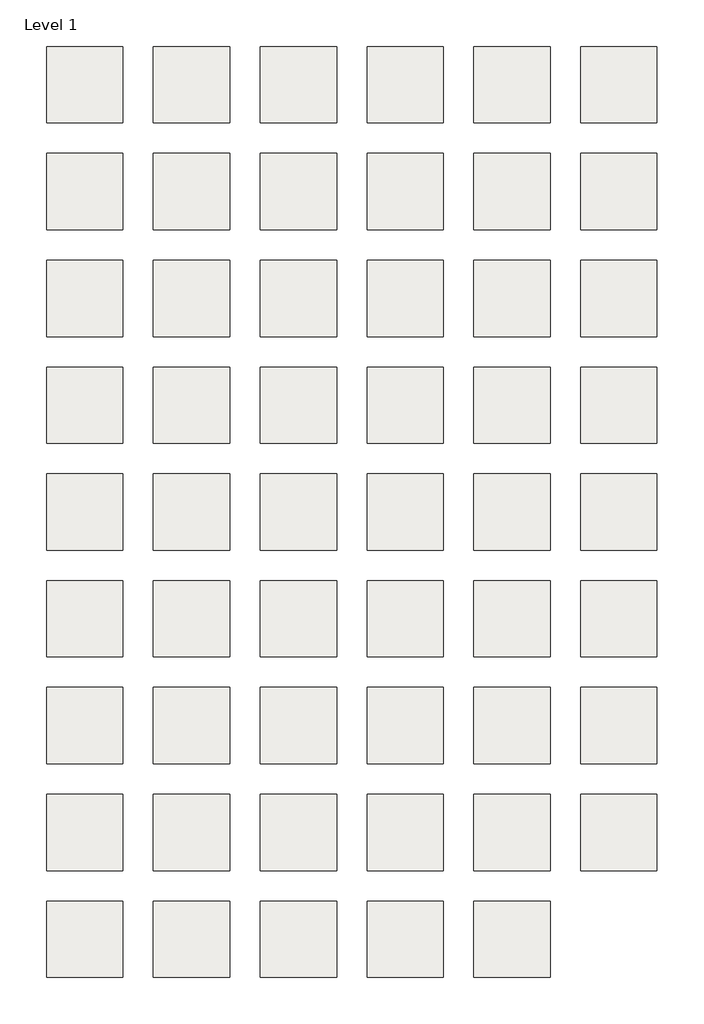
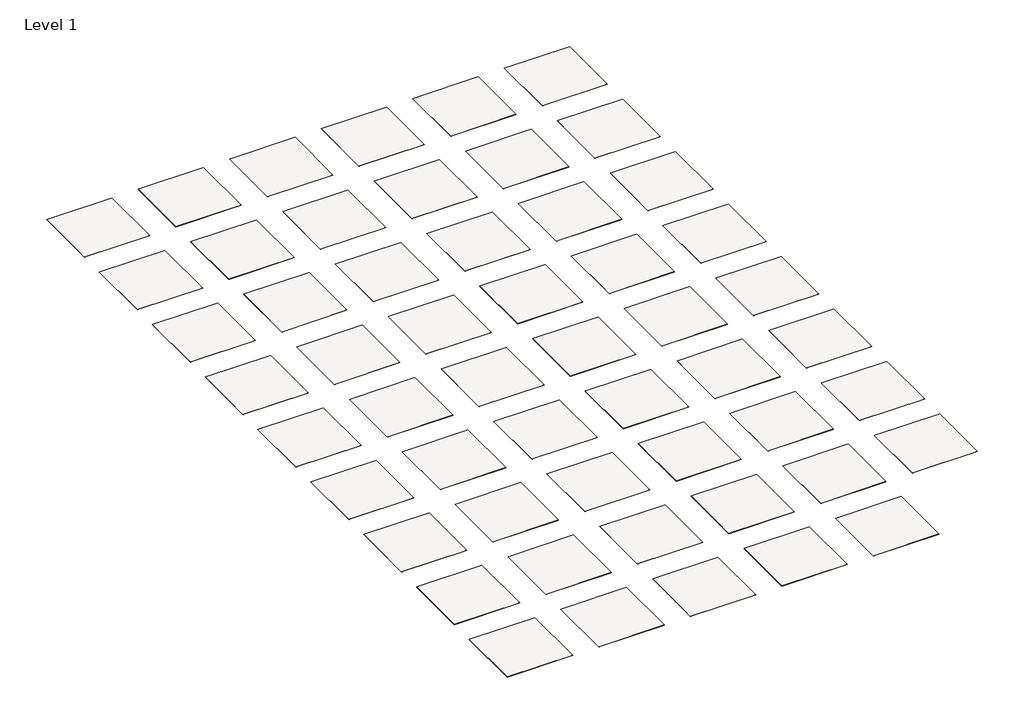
# One storey: 53 slabs.
"""IFC4 building model written with IfcOpenShell, lengths in millimetres."""

from ifc_helpers import new_model, si_unit, frame, origin, place, context, project, spatial, polyline, outline, extrude, element, save

model = new_model("IFC4")

# Units and contexts
model_context = context("Model", 3, world=origin())
ifc_project = project(units=[si_unit("LENGTHUNIT", "METRE", prefix="MILLI")], contexts=[model_context])

# Site, building, storey
site = spatial("IfcSite", under=ifc_project)
building = spatial("IfcBuilding", under=site)
storey = spatial("IfcBuildingStorey", under=building, Name="Level 1", Elevation=0.0)

# Slabs
placement = place(None, origin())
element("IfcSlab", 1, ObjectType="Armstrong Flooring_Luxury Flooring_NA120_Maritime", at=placement, inside=storey, context=model_context, shape_type="SweptSolid", body=[
    extrude(outline(polyline([(1219.2, 6400.8), (1219.2, 4876.8), (-304.8, 4876.8), (-304.8, 6400.8), (1219.2, 6400.8)])), frame((0.0, 0.0, -3.175), z_axis=(0.0, 0.0, 1.0), x_axis=(1.0, 0.0, 0.0)), (0.0, 0.0, 1.0), 3.175),
])
element("IfcSlab", 2, ObjectType="Armstrong Flooring_Luxury Flooring_NA121_Boardwalk", at=placement, inside=storey, context=model_context, shape_type="SweptSolid", body=[
    extrude(outline(polyline([(3352.8, 6400.8), (3352.8, 4876.8), (1828.8, 4876.8), (1828.8, 6400.8), (3352.8, 6400.8)])), frame((0.0, 0.0, -3.175), z_axis=(0.0, 0.0, 1.0), x_axis=(1.0, 0.0, 0.0)), (0.0, 0.0, 1.0), 3.175),
])
element("IfcSlab", 3, ObjectType="Armstrong Flooring_Luxury Flooring_NA170_Honeysuckle", at=placement, inside=storey, context=model_context, shape_type="SweptSolid", body=[
    extrude(outline(polyline([(5486.4, 6400.8), (5486.4, 4876.8), (3962.4, 4876.8), (3962.4, 6400.8), (5486.4, 6400.8)])), frame((0.0, 0.0, -3.175), z_axis=(0.0, 0.0, 1.0), x_axis=(1.0, 0.0, 0.0)), (0.0, 0.0, 1.0), 3.175),
])
element("IfcSlab", 4, ObjectType="Armstrong Flooring_Luxury Flooring_NA171_Sweet Sap", at=placement, inside=storey, context=model_context, shape_type="SweptSolid", body=[
    extrude(outline(polyline([(7620.0, 6400.8), (7620.0, 4876.8), (6096.0, 4876.8), (6096.0, 6400.8), (7620.0, 6400.8)])), frame((0.0, 0.0, -3.175), z_axis=(0.0, 0.0, 1.0), x_axis=(1.0, 0.0, 0.0)), (0.0, 0.0, 1.0), 3.175),
])
element("IfcSlab", 5, ObjectType="Armstrong Flooring_Luxury Flooring_NA180_Rye", at=placement, inside=storey, context=model_context, shape_type="SweptSolid", body=[
    extrude(outline(polyline([(9753.6, 6400.8), (9753.6, 4876.8), (8229.6, 4876.8), (8229.6, 6400.8), (9753.6, 6400.8)])), frame((0.0, 0.0, -3.175), z_axis=(0.0, 0.0, 1.0), x_axis=(1.0, 0.0, 0.0)), (0.0, 0.0, 1.0), 3.175),
])
element("IfcSlab", 6, ObjectType="Armstrong Flooring_Luxury Flooring_NA181_Wheat", at=placement, inside=storey, context=model_context, shape_type="SweptSolid", body=[
    extrude(outline(polyline([(11887.2, 6400.8), (11887.2, 4876.8), (10363.2, 4876.8), (10363.2, 6400.8), (11887.2, 6400.8)])), frame((0.0, 0.0, -3.175), z_axis=(0.0, 0.0, 1.0), x_axis=(1.0, 0.0, 0.0)), (0.0, 0.0, 1.0), 3.175),
])
element("IfcSlab", 7, ObjectType="Armstrong Flooring_Luxury Flooring_NA190_Moroccan Sand", at=placement, inside=storey, context=model_context, shape_type="SweptSolid", body=[
    extrude(outline(polyline([(1219.2, 4267.2), (1219.2, 2743.2), (-304.8, 2743.2), (-304.8, 4267.2), (1219.2, 4267.2)])), frame((0.0, 0.0, -3.175), z_axis=(0.0, 0.0, 1.0), x_axis=(1.0, 0.0, 0.0)), (0.0, 0.0, 1.0), 3.175),
])
element("IfcSlab", 8, ObjectType="Armstrong Flooring_Luxury Flooring_NA191_Warm Capri", at=placement, inside=storey, context=model_context, shape_type="SweptSolid", body=[
    extrude(outline(polyline([(3352.8, 4267.2), (3352.8, 2743.2), (1828.8, 2743.2), (1828.8, 4267.2), (3352.8, 4267.2)])), frame((0.0, 0.0, -3.175), z_axis=(0.0, 0.0, 1.0), x_axis=(1.0, 0.0, 0.0)), (0.0, 0.0, 1.0), 3.175),
])
element("IfcSlab", 9, ObjectType="Armstrong Flooring_Luxury Flooring_NA193_Vienna Smoke", at=placement, inside=storey, context=model_context, shape_type="SweptSolid", body=[
    extrude(outline(polyline([(5486.4, 4267.2), (5486.4, 2743.2), (3962.4, 2743.2), (3962.4, 4267.2), (5486.4, 4267.2)])), frame((0.0, 0.0, -3.175), z_axis=(0.0, 0.0, 1.0), x_axis=(1.0, 0.0, 0.0)), (0.0, 0.0, 1.0), 3.175),
])
element("IfcSlab", 10, ObjectType="Armstrong Flooring_Luxury Flooring_NA194_Madrid Grey", at=placement, inside=storey, context=model_context, shape_type="SweptSolid", body=[
    extrude(outline(polyline([(7620.0, 4267.2), (7620.0, 2743.2), (6096.0, 2743.2), (6096.0, 4267.2), (7620.0, 4267.2)])), frame((0.0, 0.0, -3.175), z_axis=(0.0, 0.0, 1.0), x_axis=(1.0, 0.0, 0.0)), (0.0, 0.0, 1.0), 3.175),
])
element("IfcSlab", 11, ObjectType="Armstrong Flooring_Luxury Flooring_NA225_Saddle Rust", at=placement, inside=storey, context=model_context, shape_type="SweptSolid", body=[
    extrude(outline(polyline([(9753.6, 4267.2), (9753.6, 2743.2), (8229.6, 2743.2), (8229.6, 4267.2), (9753.6, 4267.2)])), frame((0.0, 0.0, -3.175), z_axis=(0.0, 0.0, 1.0), x_axis=(1.0, 0.0, 0.0)), (0.0, 0.0, 1.0), 3.175),
])
element("IfcSlab", 12, ObjectType="Armstrong Flooring_Luxury Flooring_NA310_Irish Cream", at=placement, inside=storey, context=model_context, shape_type="SweptSolid", body=[
    extrude(outline(polyline([(11887.2, 4267.2), (11887.2, 2743.2), (10363.2, 2743.2), (10363.2, 4267.2), (11887.2, 4267.2)])), frame((0.0, 0.0, -3.175), z_axis=(0.0, 0.0, 1.0), x_axis=(1.0, 0.0, 0.0)), (0.0, 0.0, 1.0), 3.175),
])
element("IfcSlab", 13, ObjectType="Armstrong Flooring_Luxury Flooring_NA330_Plaster", at=placement, inside=storey, context=model_context, shape_type="SweptSolid", body=[
    extrude(outline(polyline([(1219.2, 2133.6), (1219.2, 609.6), (-304.8, 609.6), (-304.8, 2133.6), (1219.2, 2133.6)])), frame((0.0, 0.0, -3.175), z_axis=(0.0, 0.0, 1.0), x_axis=(1.0, 0.0, 0.0)), (0.0, 0.0, 1.0), 3.175),
])
element("IfcSlab", 14, ObjectType="Armstrong Flooring_Luxury Flooring_NA331_Mortar", at=placement, inside=storey, context=model_context, shape_type="SweptSolid", body=[
    extrude(outline(polyline([(3352.8, 2133.6), (3352.8, 609.6), (1828.8, 609.6), (1828.8, 2133.6), (3352.8, 2133.6)])), frame((0.0, 0.0, -3.175), z_axis=(0.0, 0.0, 1.0), x_axis=(1.0, 0.0, 0.0)), (0.0, 0.0, 1.0), 3.175),
])
element("IfcSlab", 15, ObjectType="Armstrong Flooring_Luxury Flooring_NA511_Carmelo", at=placement, inside=storey, context=model_context, shape_type="SweptSolid", body=[
    extrude(outline(polyline([(5486.4, 2133.6), (5486.4, 609.6), (3962.4, 609.6), (3962.4, 2133.6), (5486.4, 2133.6)])), frame((0.0, 0.0, -3.175), z_axis=(0.0, 0.0, 1.0), x_axis=(1.0, 0.0, 0.0)), (0.0, 0.0, 1.0), 3.175),
])
element("IfcSlab", 16, ObjectType="Armstrong Flooring_Luxury Flooring_NA512_Jute", at=placement, inside=storey, context=model_context, shape_type="SweptSolid", body=[
    extrude(outline(polyline([(7620.0, 2133.6), (7620.0, 609.6), (6096.0, 609.6), (6096.0, 2133.6), (7620.0, 2133.6)])), frame((0.0, 0.0, -3.175), z_axis=(0.0, 0.0, 1.0), x_axis=(1.0, 0.0, 0.0)), (0.0, 0.0, 1.0), 3.175),
])
element("IfcSlab", 17, ObjectType="Armstrong Flooring_Luxury Flooring_NA513_Russet", at=placement, inside=storey, context=model_context, shape_type="SweptSolid", body=[
    extrude(outline(polyline([(9753.6, 2133.6), (9753.6, 609.6), (8229.6, 609.6), (8229.6, 2133.6), (9753.6, 2133.6)])), frame((0.0, 0.0, -3.175), z_axis=(0.0, 0.0, 1.0), x_axis=(1.0, 0.0, 0.0)), (0.0, 0.0, 1.0), 3.175),
])
element("IfcSlab", 18, ObjectType="Armstrong Flooring_Luxury Flooring_NA514_Auburn", at=placement, inside=storey, context=model_context, shape_type="SweptSolid", body=[
    extrude(outline(polyline([(11887.2, 2133.6), (11887.2, 609.6), (10363.2, 609.6), (10363.2, 2133.6), (11887.2, 2133.6)])), frame((0.0, 0.0, -3.175), z_axis=(0.0, 0.0, 1.0), x_axis=(1.0, 0.0, 0.0)), (0.0, 0.0, 1.0), 3.175),
])
element("IfcSlab", 19, ObjectType="Armstrong Flooring_Luxury Flooring_NA515_Luce", at=placement, inside=storey, context=model_context, shape_type="SweptSolid", body=[
    extrude(outline(polyline([(1219.2, 0.0), (1219.2, -1524.0), (-304.8, -1524.0), (-304.8, 0.0), (1219.2, 0.0)])), frame((0.0, 0.0, -3.175), z_axis=(0.0, 0.0, 1.0), x_axis=(1.0, 0.0, 0.0)), (0.0, 0.0, 1.0), 3.175),
])
element("IfcSlab", 20, ObjectType="Armstrong Flooring_Luxury Flooring_NA516_Sienna", at=placement, inside=storey, context=model_context, shape_type="SweptSolid", body=[
    extrude(outline(polyline([(3352.8, 0.0), (3352.8, -1524.0), (1828.8, -1524.0), (1828.8, 0.0), (3352.8, 0.0)])), frame((0.0, 0.0, -3.175), z_axis=(0.0, 0.0, 1.0), x_axis=(1.0, 0.0, 0.0)), (0.0, 0.0, 1.0), 3.175),
])
element("IfcSlab", 21, ObjectType="Armstrong Flooring_Luxury Flooring_NA517_Fresco", at=placement, inside=storey, context=model_context, shape_type="SweptSolid", body=[
    extrude(outline(polyline([(5486.4, 0.0), (5486.4, -1524.0), (3962.4, -1524.0), (3962.4, 0.0), (5486.4, 0.0)])), frame((0.0, 0.0, -3.175), z_axis=(0.0, 0.0, 1.0), x_axis=(1.0, 0.0, 0.0)), (0.0, 0.0, 1.0), 3.175),
])
element("IfcSlab", 22, ObjectType="Armstrong Flooring_Luxury Flooring_NA518_Rustle", at=placement, inside=storey, context=model_context, shape_type="SweptSolid", body=[
    extrude(outline(polyline([(7620.0, 0.0), (7620.0, -1524.0), (6096.0, -1524.0), (6096.0, 0.0), (7620.0, 0.0)])), frame((0.0, 0.0, -3.175), z_axis=(0.0, 0.0, 1.0), x_axis=(1.0, 0.0, 0.0)), (0.0, 0.0, 1.0), 3.175),
])
element("IfcSlab", 23, ObjectType="Armstrong Flooring_Luxury Flooring_NA519_Dune Wind", at=placement, inside=storey, context=model_context, shape_type="SweptSolid", body=[
    extrude(outline(polyline([(9753.6, 0.0), (9753.6, -1524.0), (8229.6, -1524.0), (8229.6, 0.0), (9753.6, 0.0)])), frame((0.0, 0.0, -3.175), z_axis=(0.0, 0.0, 1.0), x_axis=(1.0, 0.0, 0.0)), (0.0, 0.0, 1.0), 3.175),
])
element("IfcSlab", 24, ObjectType="Armstrong Flooring_Luxury Flooring_NA520_Ember", at=placement, inside=storey, context=model_context, shape_type="SweptSolid", body=[
    extrude(outline(polyline([(11887.2, 0.0), (11887.2, -1524.0), (10363.2, -1524.0), (10363.2, 0.0), (11887.2, 0.0)])), frame((0.0, 0.0, -3.175), z_axis=(0.0, 0.0, 1.0), x_axis=(1.0, 0.0, 0.0)), (0.0, 0.0, 1.0), 3.175),
])
element("IfcSlab", 25, ObjectType="Armstrong Flooring_Luxury Flooring_NA521_Earthbound", at=placement, inside=storey, context=model_context, shape_type="SweptSolid", body=[
    extrude(outline(polyline([(1219.2, -2133.6), (1219.2, -3657.6), (-304.8, -3657.6), (-304.8, -2133.6), (1219.2, -2133.6)])), frame((0.0, 0.0, -3.175), z_axis=(0.0, 0.0, 1.0), x_axis=(1.0, 0.0, 0.0)), (0.0, 0.0, 1.0), 3.175),
])
element("IfcSlab", 26, ObjectType="Armstrong Flooring_Luxury Flooring_NA522_Light", at=placement, inside=storey, context=model_context, shape_type="SweptSolid", body=[
    extrude(outline(polyline([(3352.8, -2133.6), (3352.8, -3657.6), (1828.8, -3657.6), (1828.8, -2133.6), (3352.8, -2133.6)])), frame((0.0, 0.0, -3.175), z_axis=(0.0, 0.0, 1.0), x_axis=(1.0, 0.0, 0.0)), (0.0, 0.0, 1.0), 3.175),
])
element("IfcSlab", 27, ObjectType="Armstrong Flooring_Luxury Flooring_NA524_Light", at=placement, inside=storey, context=model_context, shape_type="SweptSolid", body=[
    extrude(outline(polyline([(5486.4, -2133.6), (5486.4, -3657.6), (3962.4, -3657.6), (3962.4, -2133.6), (5486.4, -2133.6)])), frame((0.0, 0.0, -3.175), z_axis=(0.0, 0.0, 1.0), x_axis=(1.0, 0.0, 0.0)), (0.0, 0.0, 1.0), 3.175),
])
element("IfcSlab", 28, ObjectType="Armstrong Flooring_Luxury Flooring_NA525_Shadow", at=placement, inside=storey, context=model_context, shape_type="SweptSolid", body=[
    extrude(outline(polyline([(7620.0, -2133.6), (7620.0, -3657.6), (6096.0, -3657.6), (6096.0, -2133.6), (7620.0, -2133.6)])), frame((0.0, 0.0, -3.175), z_axis=(0.0, 0.0, 1.0), x_axis=(1.0, 0.0, 0.0)), (0.0, 0.0, 1.0), 3.175),
])
element("IfcSlab", 29, ObjectType="Armstrong Flooring_Luxury Flooring_NA527_Shadow", at=placement, inside=storey, context=model_context, shape_type="SweptSolid", body=[
    extrude(outline(polyline([(9753.6, -2133.6), (9753.6, -3657.6), (8229.6, -3657.6), (8229.6, -2133.6), (9753.6, -2133.6)])), frame((0.0, 0.0, -3.175), z_axis=(0.0, 0.0, 1.0), x_axis=(1.0, 0.0, 0.0)), (0.0, 0.0, 1.0), 3.175),
])
element("IfcSlab", 30, ObjectType="Armstrong Flooring_Luxury Flooring_NA528_Pearl", at=placement, inside=storey, context=model_context, shape_type="SweptSolid", body=[
    extrude(outline(polyline([(11887.2, -2133.6), (11887.2, -3657.6), (10363.2, -3657.6), (10363.2, -2133.6), (11887.2, -2133.6)])), frame((0.0, 0.0, -3.175), z_axis=(0.0, 0.0, 1.0), x_axis=(1.0, 0.0, 0.0)), (0.0, 0.0, 1.0), 3.175),
])
element("IfcSlab", 31, ObjectType="Armstrong Flooring_Luxury Flooring_NA528_Pearl(1)", at=placement, inside=storey, context=model_context, shape_type="SweptSolid", body=[
    extrude(outline(polyline([(1219.2, -4267.2), (1219.2, -5791.2), (-304.8, -5791.2), (-304.8, -4267.2), (1219.2, -4267.2)])), frame((0.0, 0.0, -3.175), z_axis=(0.0, 0.0, 1.0), x_axis=(1.0, 0.0, 0.0)), (0.0, 0.0, 1.0), 3.175),
])
element("IfcSlab", 32, ObjectType="Armstrong Flooring_Luxury Flooring_NA529_Rain", at=placement, inside=storey, context=model_context, shape_type="SweptSolid", body=[
    extrude(outline(polyline([(3352.8, -4267.2), (3352.8, -5791.2), (1828.8, -5791.2), (1828.8, -4267.2), (3352.8, -4267.2)])), frame((0.0, 0.0, -3.175), z_axis=(0.0, 0.0, 1.0), x_axis=(1.0, 0.0, 0.0)), (0.0, 0.0, 1.0), 3.175),
])
element("IfcSlab", 33, ObjectType="Armstrong Flooring_Luxury Flooring_NA529_Rain(1)", at=placement, inside=storey, context=model_context, shape_type="SweptSolid", body=[
    extrude(outline(polyline([(5486.4, -4267.2), (5486.4, -5791.2), (3962.4, -5791.2), (3962.4, -4267.2), (5486.4, -4267.2)])), frame((0.0, 0.0, -3.175), z_axis=(0.0, 0.0, 1.0), x_axis=(1.0, 0.0, 0.0)), (0.0, 0.0, 1.0), 3.175),
])
element("IfcSlab", 34, ObjectType="Armstrong Flooring_Luxury Flooring_NA532_Provence Clay", at=placement, inside=storey, context=model_context, shape_type="SweptSolid", body=[
    extrude(outline(polyline([(7620.0, -4267.2), (7620.0, -5791.2), (6096.0, -5791.2), (6096.0, -4267.2), (7620.0, -4267.2)])), frame((0.0, 0.0, -3.175), z_axis=(0.0, 0.0, 1.0), x_axis=(1.0, 0.0, 0.0)), (0.0, 0.0, 1.0), 3.175),
])
element("IfcSlab", 35, ObjectType="Armstrong Flooring_Luxury Flooring_NA533_Nature Harmony", at=placement, inside=storey, context=model_context, shape_type="SweptSolid", body=[
    extrude(outline(polyline([(9753.6, -4267.2), (9753.6, -5791.2), (8229.6, -5791.2), (8229.6, -4267.2), (9753.6, -4267.2)])), frame((0.0, 0.0, -3.175), z_axis=(0.0, 0.0, 1.0), x_axis=(1.0, 0.0, 0.0)), (0.0, 0.0, 1.0), 3.175),
])
element("IfcSlab", 36, ObjectType="Armstrong Flooring_Luxury Flooring_NA534_Sunlight Walk", at=placement, inside=storey, context=model_context, shape_type="SweptSolid", body=[
    extrude(outline(polyline([(11887.2, -4267.2), (11887.2, -5791.2), (10363.2, -5791.2), (10363.2, -4267.2), (11887.2, -4267.2)])), frame((0.0, 0.0, -3.175), z_axis=(0.0, 0.0, 1.0), x_axis=(1.0, 0.0, 0.0)), (0.0, 0.0, 1.0), 3.175),
])
element("IfcSlab", 37, ObjectType="Armstrong Flooring_Luxury Flooring_NA535_Napa Beige", at=placement, inside=storey, context=model_context, shape_type="SweptSolid", body=[
    extrude(outline(polyline([(1219.2, -6400.8), (1219.2, -7924.8), (-304.8, -7924.8), (-304.8, -6400.8), (1219.2, -6400.8)])), frame((0.0, 0.0, -3.175), z_axis=(0.0, 0.0, 1.0), x_axis=(1.0, 0.0, 0.0)), (0.0, 0.0, 1.0), 3.175),
])
element("IfcSlab", 38, ObjectType="Armstrong Flooring_Luxury Flooring_NA536_Sonoma Brown", at=placement, inside=storey, context=model_context, shape_type="SweptSolid", body=[
    extrude(outline(polyline([(3352.8, -6400.8), (3352.8, -7924.8), (1828.8, -7924.8), (1828.8, -6400.8), (3352.8, -6400.8)])), frame((0.0, 0.0, -3.175), z_axis=(0.0, 0.0, 1.0), x_axis=(1.0, 0.0, 0.0)), (0.0, 0.0, 1.0), 3.175),
])
element("IfcSlab", 39, ObjectType="Armstrong Flooring_Luxury Flooring_NA537_Lincoln Cabin", at=placement, inside=storey, context=model_context, shape_type="SweptSolid", body=[
    extrude(outline(polyline([(5486.4, -6400.8), (5486.4, -7924.8), (3962.4, -7924.8), (3962.4, -6400.8), (5486.4, -6400.8)])), frame((0.0, 0.0, -3.175), z_axis=(0.0, 0.0, 1.0), x_axis=(1.0, 0.0, 0.0)), (0.0, 0.0, 1.0), 3.175),
])
element("IfcSlab", 40, ObjectType="Armstrong Flooring_Luxury Flooring_NA538_Brunette", at=placement, inside=storey, context=model_context, shape_type="SweptSolid", body=[
    extrude(outline(polyline([(7620.0, -6400.8), (7620.0, -7924.8), (6096.0, -7924.8), (6096.0, -6400.8), (7620.0, -6400.8)])), frame((0.0, 0.0, -3.175), z_axis=(0.0, 0.0, 1.0), x_axis=(1.0, 0.0, 0.0)), (0.0, 0.0, 1.0), 3.175),
])
element("IfcSlab", 41, ObjectType="Armstrong Flooring_Luxury Flooring_NA539_Harvest", at=placement, inside=storey, context=model_context, shape_type="SweptSolid", body=[
    extrude(outline(polyline([(9753.6, -6400.8), (9753.6, -7924.8), (8229.6, -7924.8), (8229.6, -6400.8), (9753.6, -6400.8)])), frame((0.0, 0.0, -3.175), z_axis=(0.0, 0.0, 1.0), x_axis=(1.0, 0.0, 0.0)), (0.0, 0.0, 1.0), 3.175),
])
element("IfcSlab", 42, ObjectType="Armstrong Flooring_Luxury Flooring_NA540_Chaga", at=placement, inside=storey, context=model_context, shape_type="SweptSolid", body=[
    extrude(outline(polyline([(11887.2, -6400.8), (11887.2, -7924.8), (10363.2, -7924.8), (10363.2, -6400.8), (11887.2, -6400.8)])), frame((0.0, 0.0, -3.175), z_axis=(0.0, 0.0, 1.0), x_axis=(1.0, 0.0, 0.0)), (0.0, 0.0, 1.0), 3.175),
])
element("IfcSlab", 43, ObjectType="Armstrong Flooring_Luxury Flooring_NA541_Essex", at=placement, inside=storey, context=model_context, shape_type="SweptSolid", body=[
    extrude(outline(polyline([(1219.2, -8534.4), (1219.2, -10058.4), (-304.8, -10058.4), (-304.8, -8534.4), (1219.2, -8534.4)])), frame((0.0, 0.0, -3.175), z_axis=(0.0, 0.0, 1.0), x_axis=(1.0, 0.0, 0.0)), (0.0, 0.0, 1.0), 3.175),
])
element("IfcSlab", 44, ObjectType="Armstrong Flooring_Luxury Flooring_NA542_Handcrafted Nutmeg", at=placement, inside=storey, context=model_context, shape_type="SweptSolid", body=[
    extrude(outline(polyline([(3352.8, -8534.4), (3352.8, -10058.4), (1828.8, -10058.4), (1828.8, -8534.4), (3352.8, -8534.4)])), frame((0.0, 0.0, -3.175), z_axis=(0.0, 0.0, 1.0), x_axis=(1.0, 0.0, 0.0)), (0.0, 0.0, 1.0), 3.175),
])
element("IfcSlab", 45, ObjectType="Armstrong Flooring_Luxury Flooring_NA543_Melted Concrete", at=placement, inside=storey, context=model_context, shape_type="SweptSolid", body=[
    extrude(outline(polyline([(5486.4, -8534.4), (5486.4, -10058.4), (3962.4, -10058.4), (3962.4, -8534.4), (5486.4, -8534.4)])), frame((0.0, 0.0, -3.175), z_axis=(0.0, 0.0, 1.0), x_axis=(1.0, 0.0, 0.0)), (0.0, 0.0, 1.0), 3.175),
])
element("IfcSlab", 46, ObjectType="Armstrong Flooring_Luxury Flooring_NA544_Afternoon Latte", at=placement, inside=storey, context=model_context, shape_type="SweptSolid", body=[
    extrude(outline(polyline([(7620.0, -8534.4), (7620.0, -10058.4), (6096.0, -10058.4), (6096.0, -8534.4), (7620.0, -8534.4)])), frame((0.0, 0.0, -3.175), z_axis=(0.0, 0.0, 1.0), x_axis=(1.0, 0.0, 0.0)), (0.0, 0.0, 1.0), 3.175),
])
element("IfcSlab", 47, ObjectType="Armstrong Flooring_Luxury Flooring_NA547_Siesta", at=placement, inside=storey, context=model_context, shape_type="SweptSolid", body=[
    extrude(outline(polyline([(9753.6, -8534.4), (9753.6, -10058.4), (8229.6, -10058.4), (8229.6, -8534.4), (9753.6, -8534.4)])), frame((0.0, 0.0, -3.175), z_axis=(0.0, 0.0, 1.0), x_axis=(1.0, 0.0, 0.0)), (0.0, 0.0, 1.0), 3.175),
])
element("IfcSlab", 48, ObjectType="Armstrong Flooring_Luxury Flooring_NA548_Promenade", at=placement, inside=storey, context=model_context, shape_type="SweptSolid", body=[
    extrude(outline(polyline([(11887.2, -8534.4), (11887.2, -10058.4), (10363.2, -10058.4), (10363.2, -8534.4), (11887.2, -8534.4)])), frame((0.0, 0.0, -3.175), z_axis=(0.0, 0.0, 1.0), x_axis=(1.0, 0.0, 0.0)), (0.0, 0.0, 1.0), 3.175),
])
element("IfcSlab", 49, ObjectType="Armstrong Flooring_Luxury Flooring_NA549_Evening Walk", at=placement, inside=storey, context=model_context, shape_type="SweptSolid", body=[
    extrude(outline(polyline([(1219.2, -10668.0), (1219.2, -12192.0), (-304.8, -12192.0), (-304.8, -10668.0), (1219.2, -10668.0)])), frame((0.0, 0.0, -3.175), z_axis=(0.0, 0.0, 1.0), x_axis=(1.0, 0.0, 0.0)), (0.0, 0.0, 1.0), 3.175),
])
element("IfcSlab", 50, ObjectType="Armstrong Flooring_Luxury Flooring_NA550_Sandy Coast", at=placement, inside=storey, context=model_context, shape_type="SweptSolid", body=[
    extrude(outline(polyline([(3352.8, -10668.0), (3352.8, -12192.0), (1828.8, -12192.0), (1828.8, -10668.0), (3352.8, -10668.0)])), frame((0.0, 0.0, -3.175), z_axis=(0.0, 0.0, 1.0), x_axis=(1.0, 0.0, 0.0)), (0.0, 0.0, 1.0), 3.175),
])
element("IfcSlab", 51, ObjectType="Armstrong Flooring_Luxury Flooring_NA551_Light", at=placement, inside=storey, context=model_context, shape_type="SweptSolid", body=[
    extrude(outline(polyline([(5486.4, -10668.0), (5486.4, -12192.0), (3962.4, -12192.0), (3962.4, -10668.0), (5486.4, -10668.0)])), frame((0.0, 0.0, -3.175), z_axis=(0.0, 0.0, 1.0), x_axis=(1.0, 0.0, 0.0)), (0.0, 0.0, 1.0), 3.175),
])
element("IfcSlab", 52, ObjectType="Armstrong Flooring_Luxury Flooring_NA552_Shadow", at=placement, inside=storey, context=model_context, shape_type="SweptSolid", body=[
    extrude(outline(polyline([(7620.0, -10668.0), (7620.0, -12192.0), (6096.0, -12192.0), (6096.0, -10668.0), (7620.0, -10668.0)])), frame((0.0, 0.0, -3.175), z_axis=(0.0, 0.0, 1.0), x_axis=(1.0, 0.0, 0.0)), (0.0, 0.0, 1.0), 3.175),
])
element("IfcSlab", 53, ObjectType="Armstrong Flooring_Luxury Flooring_NA553_Driftwood", at=placement, inside=storey, context=model_context, shape_type="SweptSolid", body=[
    extrude(outline(polyline([(9753.6, -10668.0), (9753.6, -12192.0), (8229.6, -12192.0), (8229.6, -10668.0), (9753.6, -10668.0)])), frame((0.0, 0.0, -3.175), z_axis=(0.0, 0.0, 1.0), x_axis=(1.0, 0.0, 0.0)), (0.0, 0.0, 1.0), 3.175),
])

save(model, "model.ifc")
